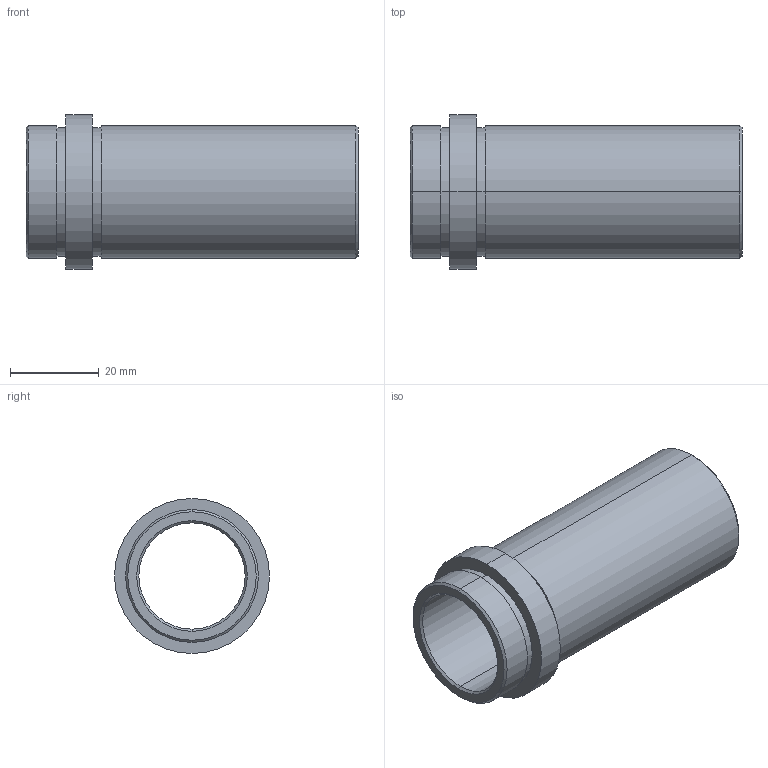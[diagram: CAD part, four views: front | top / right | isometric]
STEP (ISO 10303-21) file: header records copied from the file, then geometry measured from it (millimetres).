
FILE_DESCRIPTION( ( 'STEP AP203' ), '1' );
FILE_NAME( 'D:/Delta 3 D/D21/D21 - 24x66.step', '2002-12-31T22:48:13', ( ' ' ), ( ' ' ), 'XStep 1.0', ' ', ' ' );
FILE_SCHEMA( ( 'CONFIG_CONTROL_DESIGN' ) );
Length unit declared in the file: metre
Products named in the file (1): 1
Bounding box: 75 x 35 x 35 mm (x, y, z)
Volume: 20388.9 mm3; surface area: 13910.6 mm2
Topology: 1 solids, 1 shells, 26 faces, 52 edges, 32 vertices
Faces by surface type: revolution 20, bspline 6
Entity records: 773 total; most frequent: CARTESIAN_POINT 169, DIRECTION 106, ORIENTED_EDGE 104, EDGE_CURVE 52, AXIS2_PLACEMENT_3D 33, EDGE_LOOP 32, VERTEX_POINT 32, CIRCLE 32
